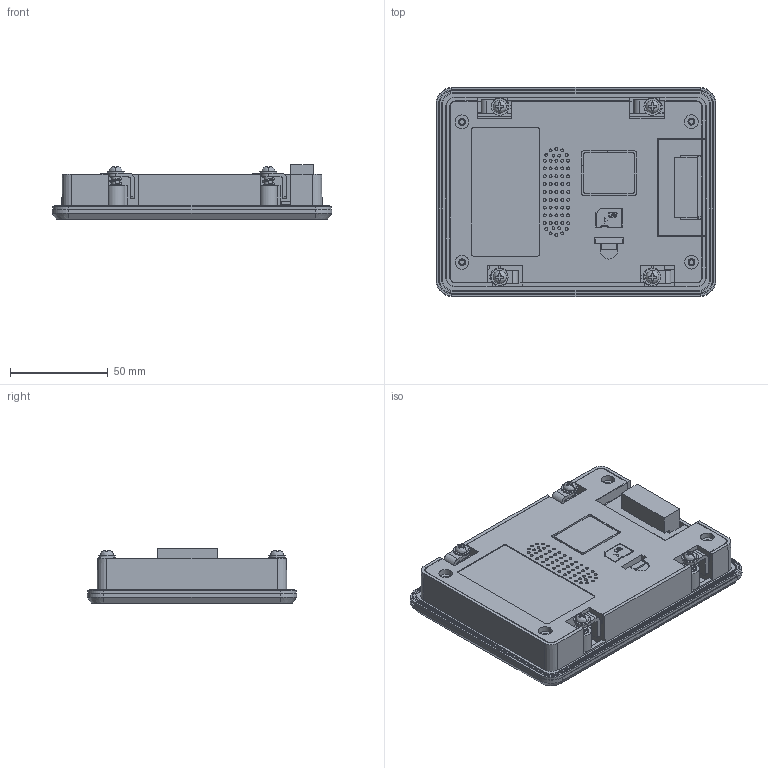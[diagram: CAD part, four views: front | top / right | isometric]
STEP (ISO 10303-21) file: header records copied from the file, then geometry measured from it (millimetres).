
FILE_DESCRIPTION((''),'2;1');
FILE_NAME('DMG80480T043-A5WTR','2021-05-12T',('Administrator'),(''),'PRO/ENGINEER BY PARAMETRIC TECHNOLOGY CORPORATION, 2011310','PRO/ENGINEER BY PARAMETRIC TECHNOLOGY CORPORATION, 2011310','');
FILE_SCHEMA(('CONFIG_CONTROL_DESIGN','SHAPE_APPEARANCE_LAYERS_GROUPS'));
Products named in the file (1): DMG80480T043-A5WTR
Bounding box: 143 x 107 x 27.94 mm (x, y, z)
Volume: 149857.8 mm3; surface area: 151906.1 mm2
Topology: 1 solids, 7 shells, 1626 faces, 4624 edges, 3031 vertices
Faces by surface type: plane 1135, cylinder 431, cone 28, bspline 26, torus 4, sphere 2
Entity records: 70564 total; most frequent: CARTESIAN_POINT 16063, ORIENTED_EDGE 9248, DIRECTION 8680, EDGE_CURVE 4624, VECTOR 3496, LINE 3496, VERTEX_POINT 3031, AXIS2_PLACEMENT_3D 2592
